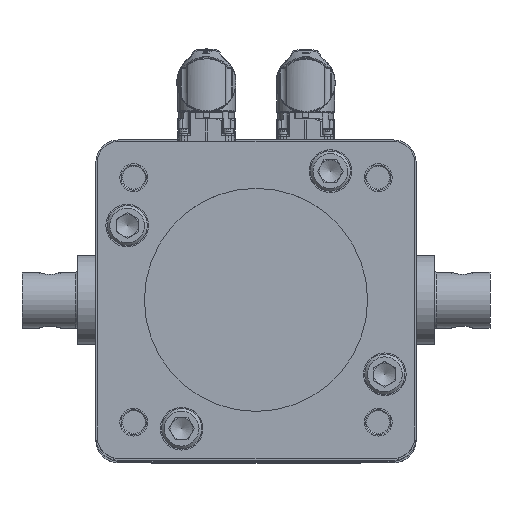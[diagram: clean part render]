
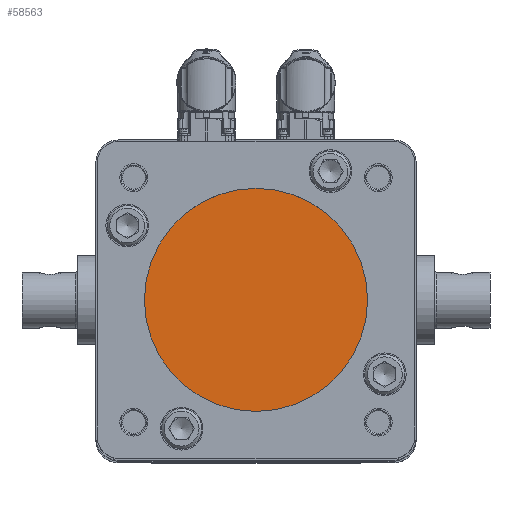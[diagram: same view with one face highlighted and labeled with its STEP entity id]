
A CAD part, top view. The second image highlights one B-rep face of the part: STEP entity #58563.
In plain terms, the highlighted planar face has unit normal (0, 0, 1).
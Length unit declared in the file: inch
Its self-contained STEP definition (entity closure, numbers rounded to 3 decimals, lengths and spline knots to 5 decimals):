
#7716 = PLANE ( 'NONE',  #29399 ) ;
#15565 = DIRECTION ( 'NONE',  ( 1., 0., 0. ) ) ;
#15611 = ORIENTED_EDGE ( 'NONE', *, *, #29379, .T. ) ;
#16026 = DIRECTION ( 'NONE',  ( 0., 0., 1. ) ) ;
#23190 = AXIS2_PLACEMENT_3D ( 'NONE', #57879, #38407, #37952 ) ;
#24553 = EDGE_LOOP ( 'NONE', ( #15611 ) ) ;
#29379 = EDGE_CURVE ( 'NONE', #55099, #55099, #36546, .T. ) ;
#29399 = AXIS2_PLACEMENT_3D ( 'NONE', #71202, #16026, #15565 ) ;
#36546 = CIRCLE ( 'NONE', #23190, 1.9685 ) ;
#37952 = DIRECTION ( 'NONE',  ( 1., 0., 0. ) ) ;
#38407 = DIRECTION ( 'NONE',  ( 0., 0., 1. ) ) ;
#42946 = FACE_OUTER_BOUND ( 'NONE', #24553, .T. ) ;
#55099 = VERTEX_POINT ( 'NONE', #61598 ) ;
#57879 = CARTESIAN_POINT ( 'NONE',  ( 0., 0., 4.95409 ) ) ;
#58563 = ADVANCED_FACE ( 'NONE', ( #42946 ), #7716, .T. ) ;
#61598 = CARTESIAN_POINT ( 'NONE',  ( 1.9685, 0., 4.95409 ) ) ;
#71202 = CARTESIAN_POINT ( 'NONE',  ( 0., 0., 4.95409 ) ) ;
